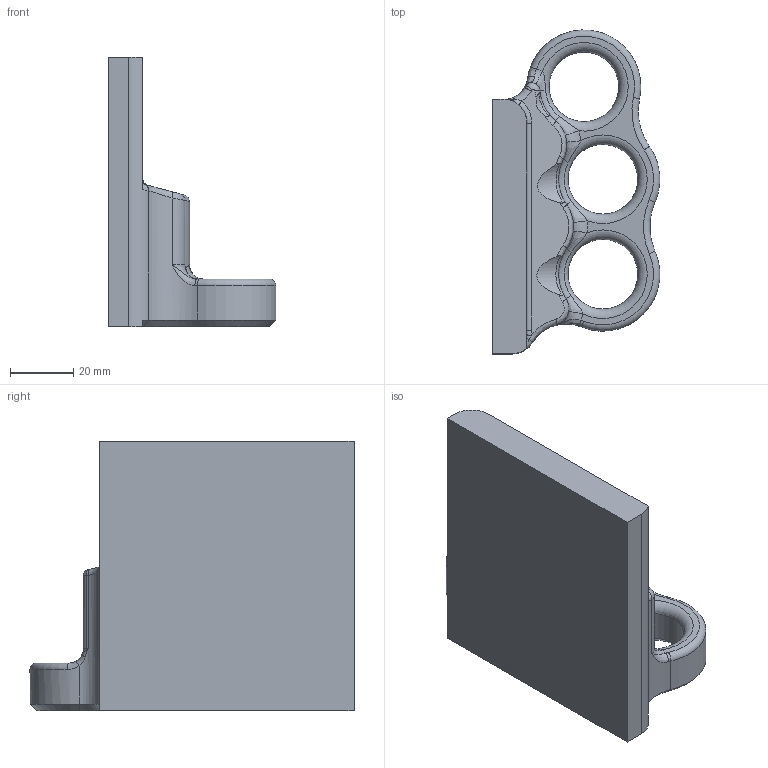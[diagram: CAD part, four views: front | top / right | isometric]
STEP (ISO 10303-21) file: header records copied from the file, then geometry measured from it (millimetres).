
FILE_DESCRIPTION(/* description */ (''),/* implementation_level */ '2;1');
FILE_NAME(/* name */ 'C:/Users/michael/Downloads/blank_phone_brassknuckles_mount.stp',/* time_stamp */ '2017-08-05T22:31:36+02:00',/* author */ (''),/* organization */ (''),/* preprocessor_version */ 'ST-DEVELOPER v16.13',/* originating_system */ 'Autodesk Translation Framework v6.1.1.50',/* authorisation */ '');
FILE_SCHEMA (('AUTOMOTIVE_DESIGN { 1 0 10303 214 3 1 1 }'));
Length unit declared in the file: millimetre
Products named in the file (1): phone_brassknuckles_mount v7
Bounding box: 52.9 x 102.38 x 85 mm (x, y, z)
Volume: 132779.2 mm3; surface area: 25710 mm2
Topology: 1 solids, 1 shells, 107 faces, 273 edges, 162 vertices
Faces by surface type: bspline 40, cylinder 25, torus 18, plane 12, cone 12
Full cylindrical faces by diameter (mm): 22 x3
Entity records: 4419 total; most frequent: CARTESIAN_POINT 1996, ORIENTED_EDGE 516, DIRECTION 485, EDGE_CURVE 258, AXIS2_PLACEMENT_3D 215, VERTEX_POINT 159, EDGE_LOOP 119, CIRCLE 111
